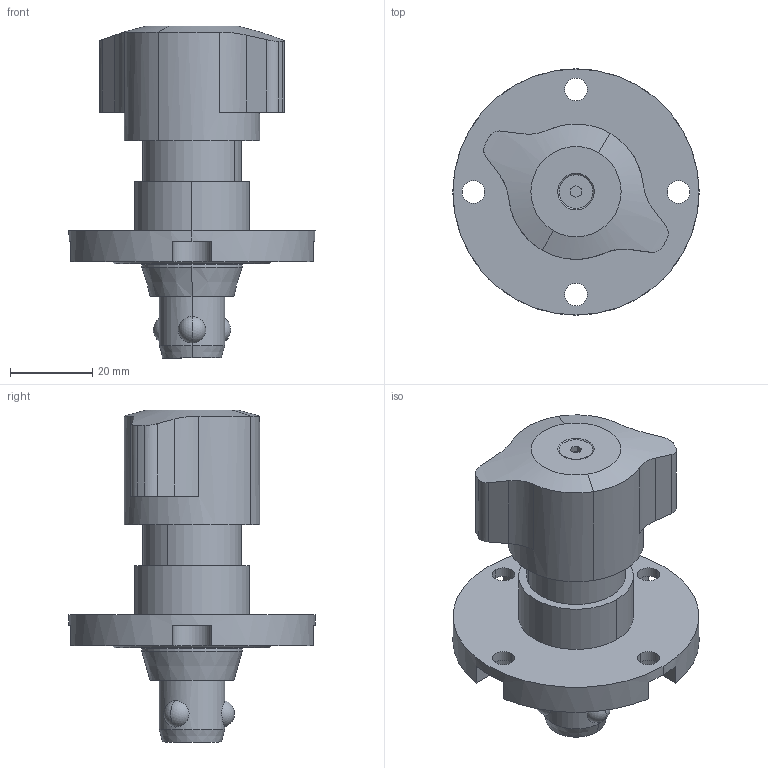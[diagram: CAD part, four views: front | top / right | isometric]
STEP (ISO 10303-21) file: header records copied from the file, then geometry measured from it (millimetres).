
FILE_DESCRIPTION (( 'STEP AP203' ), '1' );
FILE_NAME ('CP741-1660L.step', '2025-02-20T00:25:27', ( '' ), ( '' ), 'SwSTEP 2.0', 'SolidWorks 2023', '' );
FILE_SCHEMA (( 'CONFIG_CONTROL_DESIGN' ));
Length unit declared in the file: millimetre
Products named in the file (3): CP741-1660L_01; CP741-1660L_02; CP741-1660L
Assembly tree (2 placements, depth 2):
  CP741-1660L
    CP741-1660L_01
    CP741-1660L_02
Bounding box: 60 x 60 x 80.93 mm (x, y, z)
Volume: 54283.9 mm3; surface area: 24937.5 mm2
Topology: 2 solids, 2 shells, 158 faces, 356 edges, 230 vertices
Faces by surface type: cylinder 74, plane 52, cone 18, sphere 12, torus 2
Entity records: 5173 total; most frequent: CARTESIAN_POINT 1179, DIRECTION 840, ORIENTED_EDGE 712, EDGE_CURVE 356, AXIS2_PLACEMENT_3D 345, VERTEX_POINT 230, EDGE_LOOP 196, CIRCLE 182
